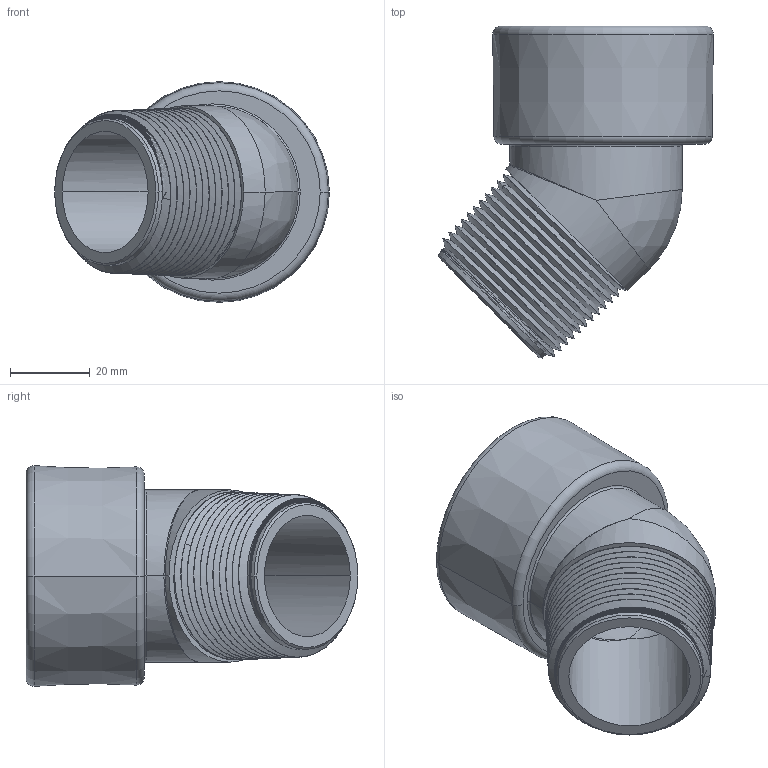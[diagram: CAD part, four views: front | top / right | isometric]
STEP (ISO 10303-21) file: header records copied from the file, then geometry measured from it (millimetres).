
FILE_DESCRIPTION(/* description */ ('Alibre Inc.'),/* implementation_level */ '2;1');
FILE_NAME(/* name */ 'export0',/* time_stamp */ '2019-10-04T16:31:08-04:00',/* author */ (''),/* organization */ (''),/* preprocessor_version */ 'ST-DEVELOPER v17',/* originating_system */ 'Alibre',/* authorisation */ '');
FILE_SCHEMA (('CONFIG_CONTROL_DESIGN'));
Length unit declared in the file: inch
Products named in the file (1): 200-N050032-1000C
Bounding box: 69.05 x 83.4 x 55.45 mm (x, y, z)
Volume: 68649.3 mm3; surface area: 28417.2 mm2
Topology: 1 solids, 1 shells, 107 faces, 314 edges, 205 vertices
Faces by surface type: cone 52, bspline 31, plane 9, cylinder 9, torus 6
Entity records: 48471 total; most frequent: CARTESIAN_POINT 46316, ORIENTED_EDGE 612, EDGE_CURVE 306, B_SPLINE_CURVE_WITH_KNOTS 210, VERTEX_POINT 205, DIRECTION 172, EDGE_LOOP 113, FACE_BOUND 113
